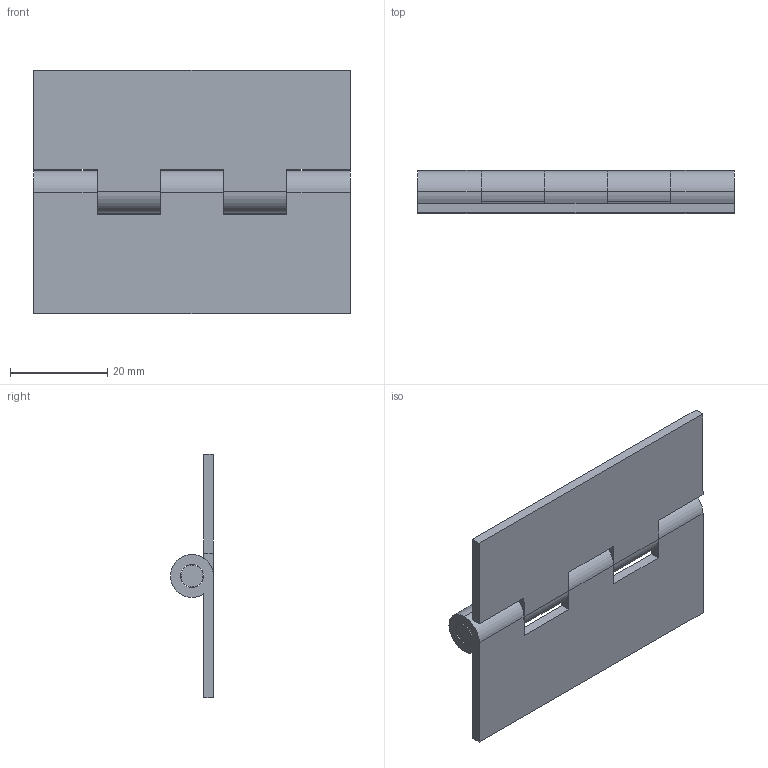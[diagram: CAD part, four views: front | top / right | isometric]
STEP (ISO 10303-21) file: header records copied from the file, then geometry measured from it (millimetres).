
FILE_DESCRIPTION (( 'STEP AP203' ), '1' );
FILE_NAME ('B17-17783.STEP', '2024-10-24T09:36:52', ( '' ), ( '' ), 'SwSTEP 2.0', 'SolidWorks 2021', '' );
FILE_SCHEMA (( 'CONFIG_CONTROL_DESIGN' ));
Length unit declared in the file: millimetre
Products named in the file (4): B17-17783; B17-4.5-65; B17-207803-2; B17-207803-1
Assembly tree (3 placements, depth 2):
  B17-17783
    B17-207803-1
    B17-207803-2
    B17-4.5-65
Bounding box: 65 x 8.8 x 50.01 mm (x, y, z)
Volume: 9352.8 mm3; surface area: 10257.1 mm2
Topology: 3 solids, 3 shells, 58 faces, 156 edges, 104 vertices
Faces by surface type: cylinder 29, plane 29
Entity records: 2264 total; most frequent: DIRECTION 342, CARTESIAN_POINT 324, ORIENTED_EDGE 312, EDGE_CURVE 156, AXIS2_PLACEMENT_3D 122, VERTEX_POINT 104, LINE 98, VECTOR 98
